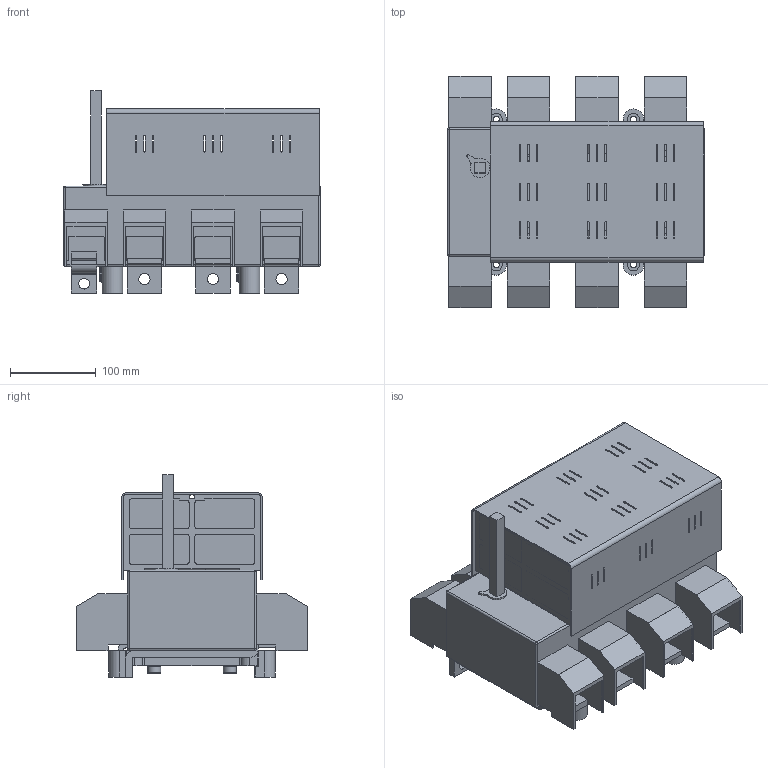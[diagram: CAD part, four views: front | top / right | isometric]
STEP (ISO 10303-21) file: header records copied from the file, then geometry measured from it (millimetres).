
FILE_DESCRIPTION(/* description */ (''),/* implementation_level */ '2;1');
FILE_NAME(/* name */ 'RAB 3 P3 NB z oslona zaciskow.stp',/* time_stamp */ '2021-08-19T14:59:50+02:00',/* author */ (''),/* organization */ (''),/* preprocessor_version */ 'ST-DEVELOPER v18.1',/* originating_system */ 'SIEMENS PLM Software NX 1965',/* authorisation */ '');
FILE_SCHEMA (('TECHNICAL_DATA_PACKAGING'));
Length unit declared in the file: millimetre
Products named in the file (1): RAB 3 P3 NB z oslona zaciskow_stp
Bounding box: 300 x 270 x 236 mm (x, y, z)
Volume: 4660471.5 mm3; surface area: 812161.5 mm2
Topology: 1 solids, 14 shells, 1782 faces, 4868 edges, 3134 vertices
Faces by surface type: plane 1102, cylinder 570, bspline 50, torus 44, cone 8, sphere 8
Full cylindrical faces by diameter (mm): 3 x4, 4.8 x4, 5.2 x2, 5.6 x4, 6.5 x26, 7 x4, 10.5 x26, 12.5 x1, 13 x7, 13.5 x4, 14 x4, 15 x4
Entity records: 58051 total; most frequent: CARTESIAN_POINT 12681, ORIENTED_EDGE 9428, DIRECTION 9304, EDGE_CURVE 4714, LINE 3350, VECTOR 3350, VERTEX_POINT 3106, AXIS2_PLACEMENT_3D 2977
